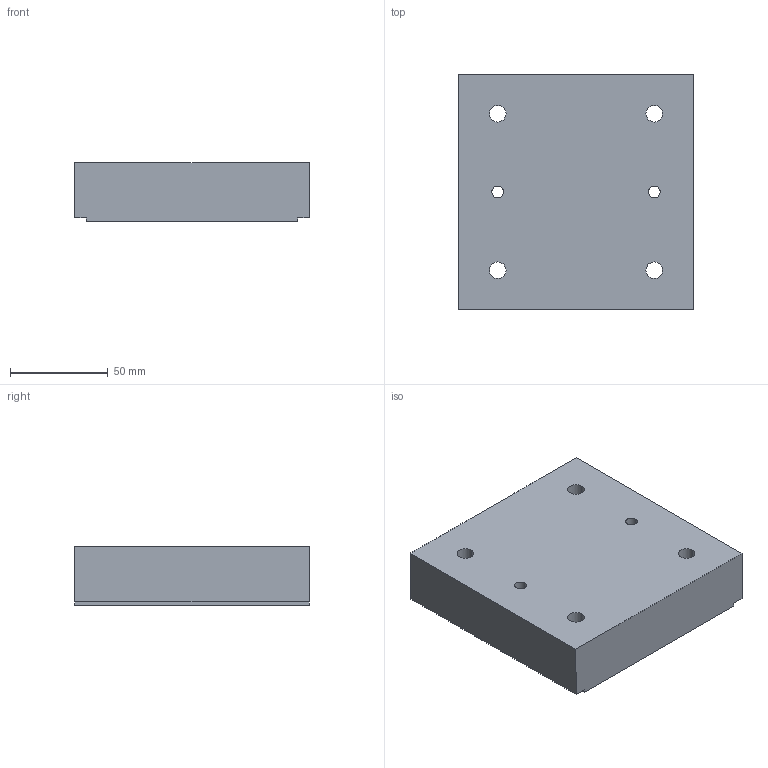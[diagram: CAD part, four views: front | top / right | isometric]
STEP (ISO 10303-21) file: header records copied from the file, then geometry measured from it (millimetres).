
FILE_DESCRIPTION (( 'STEP AP214' ), '1' );
FILE_NAME ('Mould_Switch-Insert-Side_B.STEP', '2020-01-06T13:11:40', ( 'Ritterchen' ), ( 'Microsoft' ), 'SwSTEP 2.0', 'SolidWorks 2020', '' );
FILE_SCHEMA (( 'AUTOMOTIVE_DESIGN' ));
Length unit declared in the file: millimetre
Products named in the file (1): Mould_Switch-Insert-Side_B
Bounding box: 120 x 120 x 30 mm (x, y, z)
Volume: 398438.6 mm3; surface area: 48384.5 mm2
Topology: 1 solids, 1 shells, 39 faces, 100 edges, 64 vertices
Faces by surface type: bspline 16, cylinder 12, plane 11
Entity records: 2460 total; most frequent: CARTESIAN_POINT 1576, ORIENTED_EDGE 200, DIRECTION 132, EDGE_CURVE 100, VERTEX_POINT 64, EDGE_LOOP 52, AXIS2_PLACEMENT_3D 48, FACE_OUTER_BOUND 39
